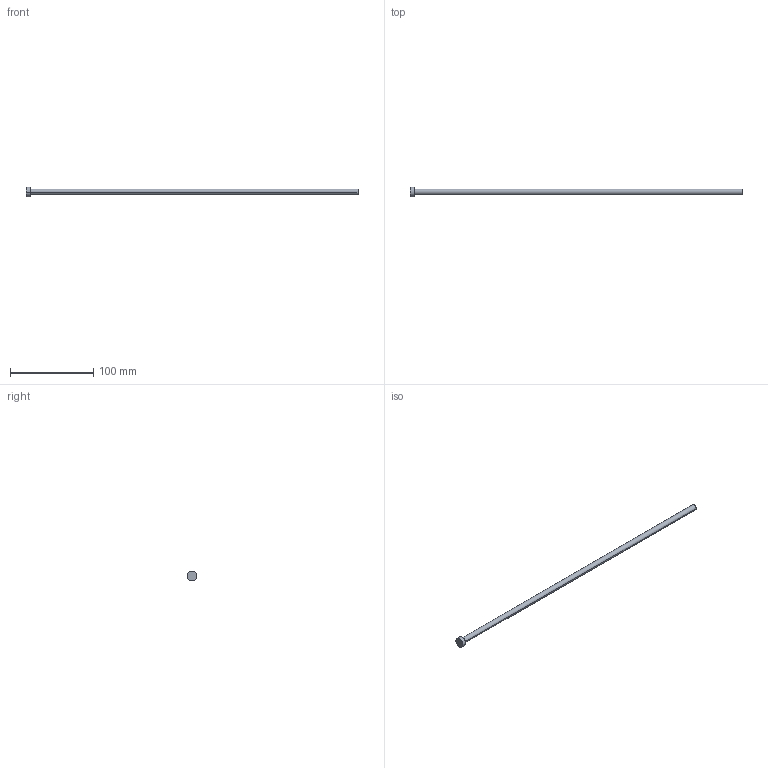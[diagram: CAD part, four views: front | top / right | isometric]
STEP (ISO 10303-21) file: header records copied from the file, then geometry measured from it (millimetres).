
FILE_DESCRIPTION (( 'STEP AP214' ), '1' );
FILE_NAME ('A-7x400.STEP', '2020-05-29T15:47:23', ( 'August' ), ( '' ), 'SwSTEP 2.0', 'SolidWorks 2018', '' );
FILE_SCHEMA (( 'AUTOMOTIVE_DESIGN' ));
Length unit declared in the file: millimetre
Products named in the file (1): A-7x400
Bounding box: 400 x 12 x 12 mm (x, y, z)
Volume: 15768.1 mm3; surface area: 9096.6 mm2
Topology: 1 solids, 1 shells, 9 faces, 16 edges, 10 vertices
Faces by surface type: cylinder 4, plane 3, torus 2
Entity records: 260 total; most frequent: DIRECTION 48, CARTESIAN_POINT 36, ORIENTED_EDGE 32, AXIS2_PLACEMENT_3D 22, EDGE_CURVE 16, CIRCLE 12, EDGE_LOOP 10, VERTEX_POINT 10
